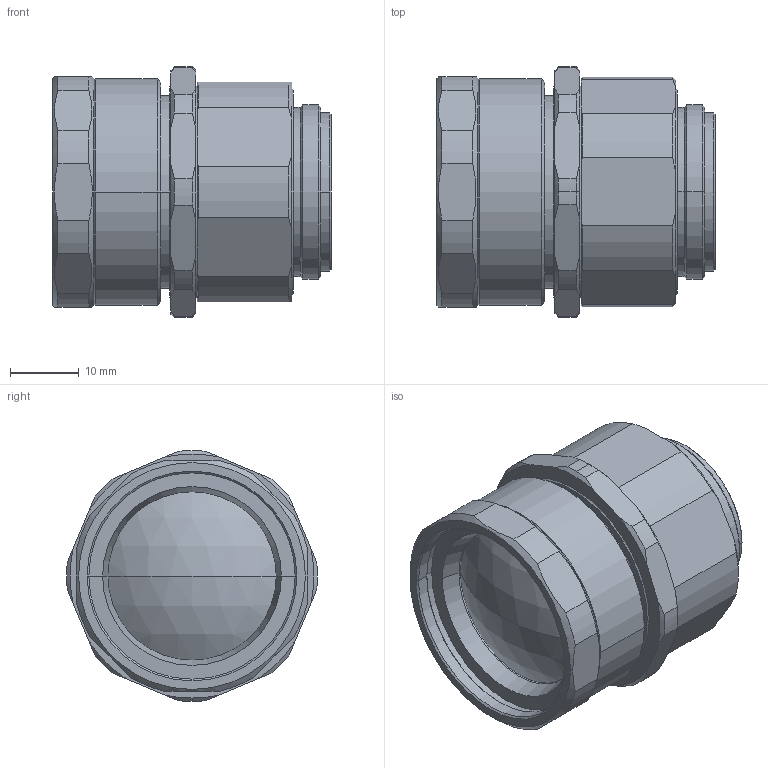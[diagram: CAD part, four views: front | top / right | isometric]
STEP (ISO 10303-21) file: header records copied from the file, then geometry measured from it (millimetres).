
FILE_DESCRIPTION (( 'STEP AP203' ), '1' );
FILE_NAME ('VS-MC35H1.STEP', '2018-12-27T02:19:13', ( '' ), ( '' ), 'SwSTEP 2.0', 'SolidWorks 2018', '' );
FILE_SCHEMA (( 'CONFIG_CONTROL_DESIGN' ));
Length unit declared in the file: millimetre
Products named in the file (1): VS-MC35H1
Bounding box: 40.52 x 36.48 x 36.5 mm (x, y, z)
Volume: 39616.4 mm3; surface area: 10492.3 mm2
Topology: 2 solids, 2 shells, 155 faces, 378 edges, 241 vertices
Faces by surface type: cone 66, cylinder 47, plane 38, sphere 4
Entity records: 4850 total; most frequent: CARTESIAN_POINT 1127, DIRECTION 781, ORIENTED_EDGE 756, EDGE_CURVE 378, AXIS2_PLACEMENT_3D 323, VERTEX_POINT 241, EDGE_LOOP 169, CIRCLE 167
